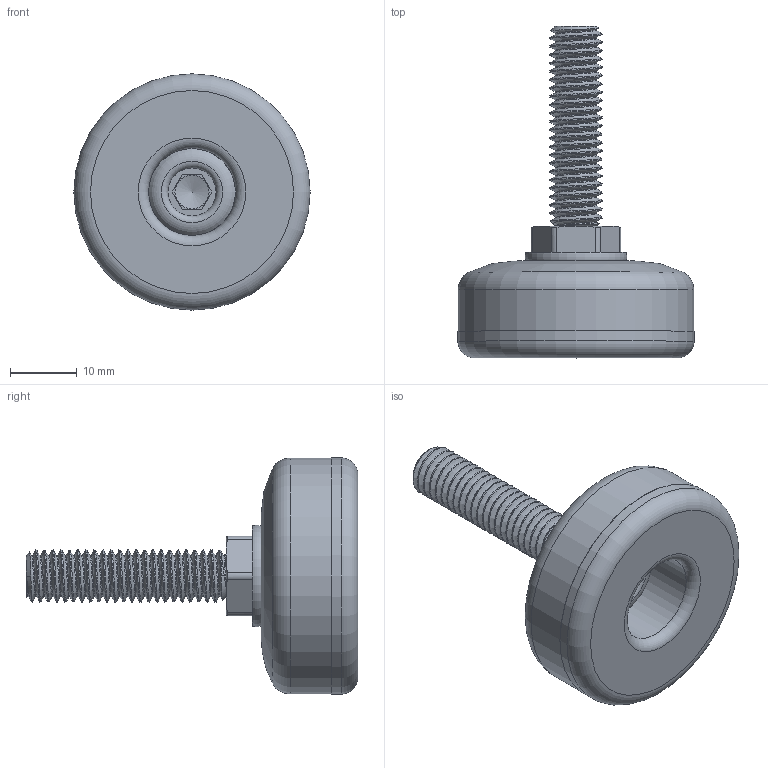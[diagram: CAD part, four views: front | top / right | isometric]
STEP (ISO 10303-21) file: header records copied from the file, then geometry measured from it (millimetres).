
FILE_DESCRIPTION(/* description */ (''),/* implementation_level */ '2;1');
FILE_NAME(/* name */ 'D:\公司文件\INVENTOR 11\GC35\GC35M830.stp',/* time_stamp */ '2021-08-03T14:52:03+08:00',/* author */ ('USER'),/* organization */ (''),/* preprocessor_version */ 'ST-DEVELOPER v17.2',/* originating_system */ 'Autodesk Inventor 2019',/* authorisation */ '');
FILE_SCHEMA (('AUTOMOTIVE_DESIGN { 1 0 10303 214 3 1 1 }'));
Length unit declared in the file: millimetre
Products named in the file (4): GC35M830; GC35; GC35P; GM830G-1-01
Assembly tree (3 placements, depth 2):
  GC35M830
    GC35
    GC35P
    GM830G-1-01
Bounding box: 35.4 x 49.7 x 35.4 mm (x, y, z)
Volume: 8700.2 mm3; surface area: 9832.8 mm2
Topology: 3 solids, 3 shells, 101 faces, 281 edges, 195 vertices
Faces by surface type: cylinder 41, plane 33, torus 16, cone 6, bspline 5
Full cylindrical faces by diameter (mm): 7.2 x1, 7.8 x21, 9.4 x1, 9.95 x1, 10.3 x1, 13.1 x1, 17.2 x1, 27.7 x1, 31.8 x1, 33.1 x1, 33.4 x1, 35.3 x1, 35.4 x1
Entity records: 9053 total; most frequent: CARTESIAN_POINT 6336, ORIENTED_EDGE 560, DIRECTION 520, EDGE_CURVE 280, AXIS2_PLACEMENT_3D 217, VERTEX_POINT 195, EDGE_LOOP 115, CIRCLE 114
